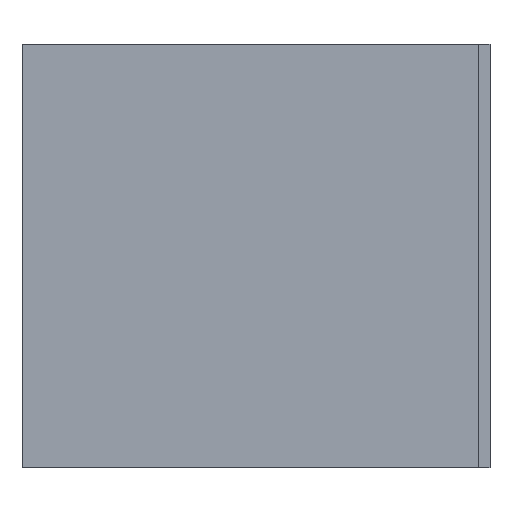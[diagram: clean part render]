
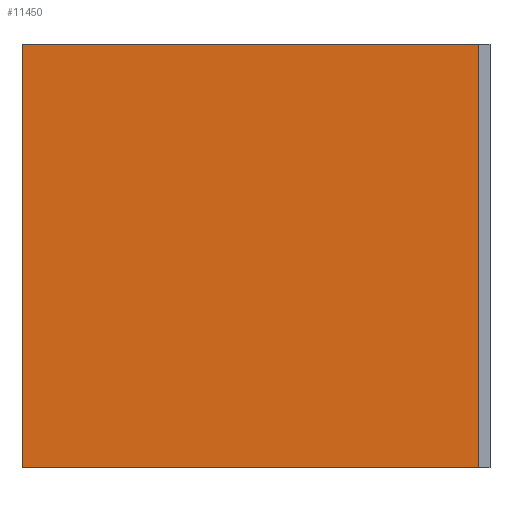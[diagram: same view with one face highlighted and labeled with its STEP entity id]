
A CAD part, left-side view. The second image highlights one B-rep face of the part: STEP entity #11450.
In plain terms, the highlighted planar face has unit normal (-1, 0, 0).
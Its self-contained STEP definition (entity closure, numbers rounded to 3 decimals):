
#109 = CARTESIAN_POINT ( 'NONE',  ( 0., 24.25, -22.5 ) ) ;
#232 = CARTESIAN_POINT ( 'NONE',  ( 0., -24.25, 22.5 ) ) ;
#306 = PLANE ( 'NONE',  #15187 ) ;
#791 = CARTESIAN_POINT ( 'NONE',  ( 0., -24.25, -22.5 ) ) ;
#859 = DIRECTION ( 'NONE',  ( 0., 1., 0. ) ) ;
#864 = CARTESIAN_POINT ( 'NONE',  ( 0., 24.25, -22.5 ) ) ;
#881 = DIRECTION ( 'NONE',  ( -1., 0., 0. ) ) ;
#883 = DIRECTION ( 'NONE',  ( 0., 0., 1. ) ) ;
#1014 = VERTEX_POINT ( 'NONE', #6523 ) ;
#2854 = ORIENTED_EDGE ( 'NONE', *, *, #10275, .F. ) ;
#2927 = ORIENTED_EDGE ( 'NONE', *, *, #10899, .F. ) ;
#2945 = ORIENTED_EDGE ( 'NONE', *, *, #12268, .F. ) ;
#2966 = ORIENTED_EDGE ( 'NONE', *, *, #8854, .F. ) ;
#3184 = CARTESIAN_POINT ( 'NONE',  ( 0., 24.25, 22.5 ) ) ;
#6523 = CARTESIAN_POINT ( 'NONE',  ( 0., -24.25, -22.5 ) ) ;
#7019 = DIRECTION ( 'NONE',  ( 0., 0., -1. ) ) ;
#7022 = CARTESIAN_POINT ( 'NONE',  ( 0., -24.25, 22.5 ) ) ;
#7094 = LINE ( 'NONE', #7022, #7116 ) ;
#7116 = VECTOR ( 'NONE', #7019, 1000. ) ;
#8289 = EDGE_LOOP ( 'NONE', ( #2966, #2945, #2927, #2854 ) ) ;
#8405 = VERTEX_POINT ( 'NONE', #3184 ) ;
#8486 = FACE_OUTER_BOUND ( 'NONE', #8289, .T. ) ;
#8758 = VERTEX_POINT ( 'NONE', #232 ) ;
#8778 = VERTEX_POINT ( 'NONE', #109 ) ;
#8854 = EDGE_CURVE ( 'NONE', #1014, #8778, #16374, .T. ) ;
#10275 = EDGE_CURVE ( 'NONE', #8778, #8405, #14326, .T. ) ;
#10899 = EDGE_CURVE ( 'NONE', #8405, #8758, #13691, .T. ) ;
#11450 = ADVANCED_FACE ( 'NONE', ( #8486 ), #306, .T. ) ;
#12268 = EDGE_CURVE ( 'NONE', #8758, #1014, #7094, .T. ) ;
#13691 = LINE ( 'NONE', #16131, #13775 ) ;
#13775 = VECTOR ( 'NONE', #16218, 1000. ) ;
#14311 = VECTOR ( 'NONE', #17137, 1000. ) ;
#14326 = LINE ( 'NONE', #16847, #14311 ) ;
#15187 = AXIS2_PLACEMENT_3D ( 'NONE', #864, #881, #883 ) ;
#16131 = CARTESIAN_POINT ( 'NONE',  ( 0., -24.25, 22.5 ) ) ;
#16218 = DIRECTION ( 'NONE',  ( 0., -1., 0. ) ) ;
#16329 = VECTOR ( 'NONE', #859, 1000. ) ;
#16374 = LINE ( 'NONE', #791, #16329 ) ;
#16847 = CARTESIAN_POINT ( 'NONE',  ( 0., 24.25, 22.5 ) ) ;
#17137 = DIRECTION ( 'NONE',  ( 0., 0., 1. ) ) ;
